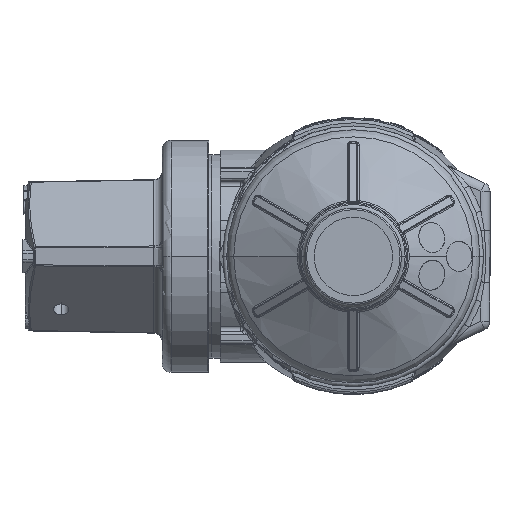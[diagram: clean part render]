
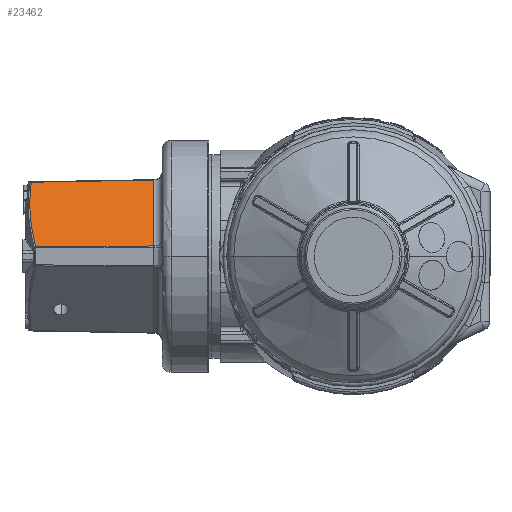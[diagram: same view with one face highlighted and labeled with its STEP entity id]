
A CAD part, left-side view. The second image highlights one B-rep face of the part: STEP entity #23462.
In plain terms, the highlighted planar face has unit normal (-0.707, 0.018, 0.707).
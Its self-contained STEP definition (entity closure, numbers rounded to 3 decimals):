
#313 = VERTEX_POINT ( 'NONE', #78197 ) ;
#515 = CARTESIAN_POINT ( 'NONE',  ( -17.553, 107.425, 17.429 ) ) ;
#1842 = LINE ( 'NONE', #54634, #83022 ) ;
#2075 = EDGE_CURVE ( 'NONE', #78046, #30608, #14106, .T. ) ;
#3156 = FACE_OUTER_BOUND ( 'NONE', #26650, .T. ) ;
#5652 = VERTEX_POINT ( 'NONE', #43821 ) ;
#5664 = ORIENTED_EDGE ( 'NONE', *, *, #7949, .T. ) ;
#7291 = ORIENTED_EDGE ( 'NONE', *, *, #2075, .T. ) ;
#7949 = EDGE_CURVE ( 'NONE', #5652, #78046, #1842, .T. ) ;
#8340 = DIRECTION ( 'NONE',  ( 0.007, 1., -0.017 ) ) ;
#13496 = CARTESIAN_POINT ( 'NONE',  ( -31.86, 105.408, 3.172 ) ) ;
#14106 = B_SPLINE_CURVE_WITH_KNOTS ( 'NONE', 3,
 ( #27347, #59364, #46417, #515, #67107, #53286, #80474, #13496 ),
 .UNSPECIFIED., .F., .F.,
 ( 4, 2, 2, 4 ),
 ( 0., 0.008, 0.015, 0.03 ),
 .UNSPECIFIED. ) ;
#18770 = CARTESIAN_POINT ( 'NONE',  ( -10.396, 106.852, 24.599 ) ) ;
#23462 = ADVANCED_FACE ( 'NONE', ( #3156 ), #41273, .F. ) ;
#24153 = LINE ( 'NONE', #42341, #56542 ) ;
#26650 = EDGE_LOOP ( 'NONE', ( #51169, #53387, #5664, #7291 ) ) ;
#27347 = CARTESIAN_POINT ( 'NONE',  ( -10.396, 106.852, 24.599 ) ) ;
#30467 = CARTESIAN_POINT ( 'NONE',  ( -31.86, 105.408, 3.172 ) ) ;
#30608 = VERTEX_POINT ( 'NONE', #30467 ) ;
#41273 = PLANE ( 'NONE',  #83451 ) ;
#42341 = CARTESIAN_POINT ( 'NONE',  ( -10.674, 66.348, 25.321 ) ) ;
#43821 = CARTESIAN_POINT ( 'NONE',  ( -10.689, 66.348, 25.306 ) ) ;
#44003 = EDGE_CURVE ( 'NONE', #30608, #313, #83651, .T. ) ;
#46417 = CARTESIAN_POINT ( 'NONE',  ( -13.97, 107.288, 21.015 ) ) ;
#47762 = DIRECTION ( 'NONE',  ( 0.707, -0.017, -0.707 ) ) ;
#51169 = ORIENTED_EDGE ( 'NONE', *, *, #44003, .T. ) ;
#53286 = CARTESIAN_POINT ( 'NONE',  ( -24.741, 106.958, 10.252 ) ) ;
#53387 = ORIENTED_EDGE ( 'NONE', *, *, #57124, .T. ) ;
#54634 = CARTESIAN_POINT ( 'NONE',  ( -10.382, 108.899, 24.564 ) ) ;
#56542 = VECTOR ( 'NONE', #69541, 1000. ) ;
#57124 = EDGE_CURVE ( 'NONE', #313, #5652, #24153, .T. ) ;
#59364 = CARTESIAN_POINT ( 'NONE',  ( -12.182, 107.113, 22.807 ) ) ;
#62411 = DIRECTION ( 'NONE',  ( -0.707, 0., -0.707 ) ) ;
#67107 = CARTESIAN_POINT ( 'NONE',  ( -19.347, 107.386, 15.635 ) ) ;
#69541 = DIRECTION ( 'NONE',  ( 0.707, 0., 0.707 ) ) ;
#69850 = CARTESIAN_POINT ( 'NONE',  ( -31.795, 109.12, 3.145 ) ) ;
#78046 = VERTEX_POINT ( 'NONE', #18770 ) ;
#78197 = CARTESIAN_POINT ( 'NONE',  ( -32.542, 66.348, 3.454 ) ) ;
#80474 = CARTESIAN_POINT ( 'NONE',  ( -28.307, 106.272, 6.703 ) ) ;
#80578 = CARTESIAN_POINT ( 'NONE',  ( -10.235, 108.9, 24.71 ) ) ;
#81273 = VECTOR ( 'NONE', #82813, 1000. ) ;
#82813 = DIRECTION ( 'NONE',  ( -0.017, -1., 0.007 ) ) ;
#83022 = VECTOR ( 'NONE', #8340, 1000. ) ;
#83451 = AXIS2_PLACEMENT_3D ( 'NONE', #80578, #47762, #62411 ) ;
#83651 = LINE ( 'NONE', #69850, #81273 ) ;
